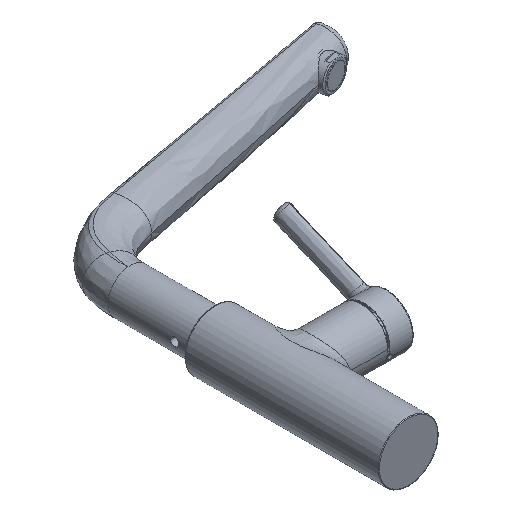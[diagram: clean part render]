
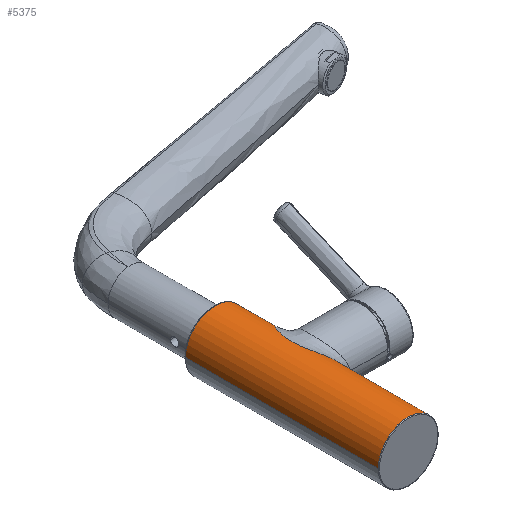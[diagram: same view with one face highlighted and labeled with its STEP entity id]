
A CAD part, isometric view. The second image highlights one B-rep face of the part: STEP entity #5375.
In plain terms, the highlighted cylindrical face has radius 23 mm (diameter 46 mm), a partial arc.
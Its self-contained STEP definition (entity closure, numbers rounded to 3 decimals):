
#490=CARTESIAN_POINT('',(0.,149.,0.));
#491=DIRECTION('',(0.,-1.,0.));
#492=DIRECTION('',(1.,0.,0.));
#493=AXIS2_PLACEMENT_3D('',#490,#491,#492);
#495=DIRECTION('',(0.,-1.,0.));
#496=VECTOR('',#495,24.5);
#497=CARTESIAN_POINT('',(23.,149.,0.));
#498=LINE('',#497,#496);
#499=DIRECTION('',(0.,-1.,0.));
#500=VECTOR('',#499,68.);
#501=CARTESIAN_POINT('',(23.,68.5,0.));
#502=LINE('',#501,#500);
#503=CARTESIAN_POINT('',(0.,0.5,0.));
#504=DIRECTION('',(0.,-1.,0.));
#505=DIRECTION('',(1.,0.,0.));
#506=AXIS2_PLACEMENT_3D('',#503,#504,#505);
#508=DIRECTION('',(0.,-1.,0.));
#509=VECTOR('',#508,148.5);
#510=CARTESIAN_POINT('',(-23.,149.,0.));
#511=LINE('',#510,#509);
#577=CARTESIAN_POINT('',(23.,124.5,0.));
#578=CARTESIAN_POINT('',(23.,124.5,0.556));
#579=CARTESIAN_POINT('',(22.96,124.478,1.665));
#580=CARTESIAN_POINT('',(22.781,124.378,3.308));
#581=CARTESIAN_POINT('',(22.487,124.21,4.923));
#582=CARTESIAN_POINT('',(22.083,123.972,6.497));
#583=CARTESIAN_POINT('',(21.576,123.663,8.019));
#584=CARTESIAN_POINT('',(20.975,123.279,9.479));
#585=CARTESIAN_POINT('',(20.29,122.817,10.867));
#586=CARTESIAN_POINT('',(19.531,122.275,12.177));
#587=CARTESIAN_POINT('',(18.707,121.648,13.407));
#588=CARTESIAN_POINT('',(17.828,120.929,14.555));
#589=CARTESIAN_POINT('',(16.904,120.115,15.617));
#590=CARTESIAN_POINT('',(15.948,119.203,16.591));
#591=CARTESIAN_POINT('',(14.965,118.185,17.482));
#592=CARTESIAN_POINT('',(13.969,117.047,18.286));
#593=CARTESIAN_POINT('',(12.966,115.788,19.01));
#594=CARTESIAN_POINT('',(11.968,114.391,19.652));
#595=CARTESIAN_POINT('',(10.994,112.854,20.212));
#596=CARTESIAN_POINT('',(10.065,111.179,20.689));
#597=CARTESIAN_POINT('',(9.201,109.369,21.086));
#598=CARTESIAN_POINT('',(8.424,107.432,21.407));
#599=CARTESIAN_POINT('',(7.756,105.383,21.656));
#600=CARTESIAN_POINT('',(7.217,103.243,21.84));
#601=CARTESIAN_POINT('',(6.822,101.034,21.966));
#602=CARTESIAN_POINT('',(6.581,98.777,22.039));
#603=CARTESIAN_POINT('',(6.498,96.495,22.063));
#604=CARTESIAN_POINT('',(6.581,94.219,22.039));
#605=CARTESIAN_POINT('',(6.82,91.969,21.966));
#606=CARTESIAN_POINT('',(7.216,89.765,21.841));
#607=CARTESIAN_POINT('',(7.754,87.623,21.657));
#608=CARTESIAN_POINT('',(8.424,85.567,21.406));
#609=CARTESIAN_POINT('',(9.204,83.627,21.084));
#610=CARTESIAN_POINT('',(10.066,81.817,20.688));
#611=CARTESIAN_POINT('',(10.995,80.144,20.212));
#612=CARTESIAN_POINT('',(11.969,78.608,19.652));
#613=CARTESIAN_POINT('',(12.968,77.209,19.008));
#614=CARTESIAN_POINT('',(13.972,75.949,18.284));
#615=CARTESIAN_POINT('',(14.969,74.809,17.479));
#616=CARTESIAN_POINT('',(15.954,73.793,16.586));
#617=CARTESIAN_POINT('',(16.908,72.88,15.613));
#618=CARTESIAN_POINT('',(17.834,72.067,14.547));
#619=CARTESIAN_POINT('',(18.715,71.346,13.397));
#620=CARTESIAN_POINT('',(19.539,70.72,12.165));
#621=CARTESIAN_POINT('',(20.296,70.178,10.856));
#622=CARTESIAN_POINT('',(20.98,69.717,9.468));
#623=CARTESIAN_POINT('',(21.582,69.333,8.005));
#624=CARTESIAN_POINT('',(22.087,69.026,6.482));
#625=CARTESIAN_POINT('',(22.489,68.789,4.911));
#626=CARTESIAN_POINT('',(22.782,68.621,3.301));
#627=CARTESIAN_POINT('',(22.96,68.522,1.661));
#628=CARTESIAN_POINT('',(23.,68.5,0.555));
#629=CARTESIAN_POINT('',(23.,68.5,0.));
#4127=VERTEX_POINT('',#577);
#4128=VERTEX_POINT('',#629);
#4135=CARTESIAN_POINT('',(23.,0.5,0.));
#4136=CARTESIAN_POINT('',(-23.,0.5,0.));
#4137=VERTEX_POINT('',#4135);
#4138=VERTEX_POINT('',#4136);
#4139=CARTESIAN_POINT('',(-23.,149.,0.));
#4140=CARTESIAN_POINT('',(23.,149.,0.));
#4141=VERTEX_POINT('',#4139);
#4142=VERTEX_POINT('',#4140);
#5359=CARTESIAN_POINT('',(0.,157.5,0.));
#5360=DIRECTION('',(0.,-1.,0.));
#5361=DIRECTION('',(-1.,0.,0.));
#5362=AXIS2_PLACEMENT_3D('',#5359,#5360,#5361);
#5363=CYLINDRICAL_SURFACE('',#5362,23.);
#5365=ORIENTED_EDGE('',*,*,#5364,.F.);
#5366=ORIENTED_EDGE('',*,*,#5354,.T.);
#5368=ORIENTED_EDGE('',*,*,#5367,.T.);
#5369=ORIENTED_EDGE('',*,*,#5350,.T.);
#5371=ORIENTED_EDGE('',*,*,#5370,.T.);
#5372=ORIENTED_EDGE('',*,*,#5346,.F.);
#5373=EDGE_LOOP('',(#5365,#5366,#5368,#5369,#5371,#5372));
#5374=FACE_OUTER_BOUND('',#5373,.F.);
#5375=ADVANCED_FACE('',(#5374),#5363,.T.);
#494=CIRCLE('',#493,23.);
#507=CIRCLE('',#506,23.);
#630=B_SPLINE_CURVE_WITH_KNOTS('',3,(#577,#578,#579,#580,#581,#582,#583,#584,
#585,#586,#587,#588,#589,#590,#591,#592,#593,#594,#595,#596,#597,#598,#599,#600,
#601,#602,#603,#604,#605,#606,#607,#608,#609,#610,#611,#612,#613,#614,#615,#616,
#617,#618,#619,#620,#621,#622,#623,#624,#625,#626,#627,#628,#629),.UNSPECIFIED.,
.F.,.F.,(4,1,1,1,1,1,1,1,1,1,1,1,1,1,1,1,1,1,1,1,1,1,1,1,1,1,1,1,1,1,1,1,1,1,1,
1,1,1,1,1,1,1,1,1,1,1,1,1,1,1,4),(0.,0.02,0.04,0.06,0.08,0.1,0.12,
0.14,0.16,0.18,0.2,0.22,0.24,0.26,0.28,0.3,0.32,0.34,
0.36,0.38,0.4,0.42,0.44,0.46,0.48,0.5,0.52,0.54,0.56,
0.58,0.6,0.62,0.64,0.66,0.68,0.7,0.72,0.74,0.76,0.78,
0.8,0.82,0.84,0.86,0.88,0.9,0.92,0.94,0.96,0.98,1.),
.UNSPECIFIED.);
#5346=EDGE_CURVE('',#4141,#4138,#511,.T.);
#5350=EDGE_CURVE('',#4128,#4137,#502,.T.);
#5354=EDGE_CURVE('',#4142,#4127,#498,.T.);
#5364=EDGE_CURVE('',#4142,#4141,#494,.T.);
#5367=EDGE_CURVE('',#4127,#4128,#630,.T.);
#5370=EDGE_CURVE('',#4137,#4138,#507,.T.);
